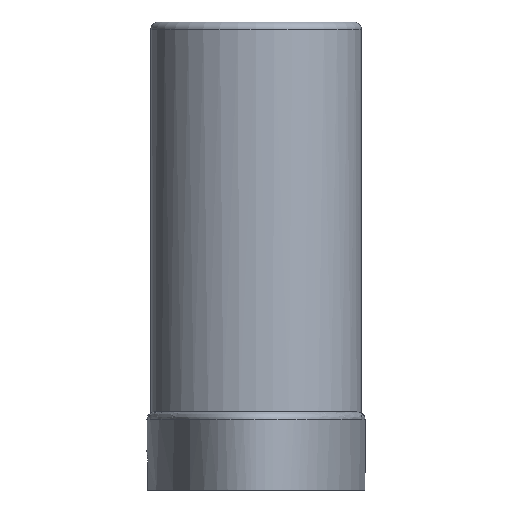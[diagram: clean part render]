
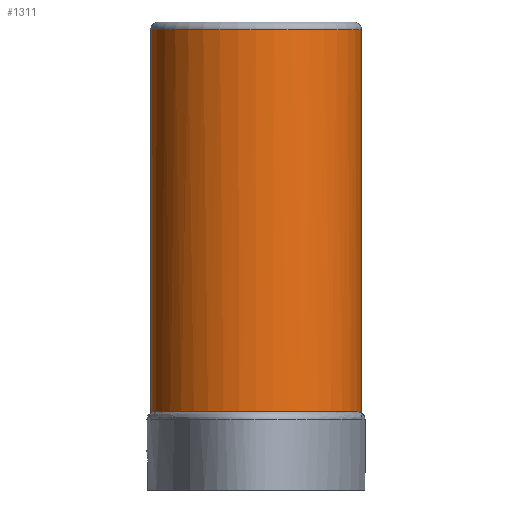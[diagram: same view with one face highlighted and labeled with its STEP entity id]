
A CAD part, left-side view. The second image highlights one B-rep face of the part: STEP entity #1311.
In plain terms, the highlighted cylindrical face has radius 6.75 mm (diameter 13.5 mm), a full revolution.
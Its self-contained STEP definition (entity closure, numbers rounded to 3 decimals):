
#93=B_SPLINE_CURVE_WITH_KNOTS('',3,(#2774,#2775,#2776,#2777,#2778,#2779,
#2780,#2781,#2782,#2783,#2784,#2785,#2786,#2787,#2788,#2789,#2790,#2791,
#2792,#2793,#2794,#2795,#2796,#2797),.UNSPECIFIED.,.F.,.F.,(4,2,2,2,2,2,
2,2,2,2,2,4),(0.,0.021,0.173,0.183,
0.188,0.19,0.193,0.198,
0.207,0.228,0.277,0.367),
 .UNSPECIFIED.);
#98=B_SPLINE_CURVE_WITH_KNOTS('',3,(#2849,#2850,#2851,#2852,#2853,#2854,
#2855,#2856,#2857,#2858,#2859,#2860,#2861,#2862,#2863,#2864,#2865,#2866,
#2867,#2868,#2869,#2870,#2871,#2872),.UNSPECIFIED.,.F.,.F.,(4,2,2,2,2,2,
2,2,2,2,2,4),(0.,0.021,0.173,0.183,
0.188,0.19,0.193,0.198,
0.207,0.228,0.277,0.367),
 .UNSPECIFIED.);
#195=FACE_OUTER_BOUND('',#274,.T.);
#274=EDGE_LOOP('',(#1179,#1180,#1181,#1182,#1183,#1184,#1185,#1186));
#338=LINE('',#3156,#396);
#396=VECTOR('',#1825,6.75);
#465=CIRCLE('',#1442,6.75);
#466=CIRCLE('',#1443,6.75);
#481=CIRCLE('',#1477,6.75);
#482=CIRCLE('',#1479,6.75);
#574=VERTEX_POINT('',#2772);
#575=VERTEX_POINT('',#2773);
#579=VERTEX_POINT('',#2839);
#580=VERTEX_POINT('',#2848);
#581=VERTEX_POINT('',#2891);
#605=VERTEX_POINT('',#3152);
#749=EDGE_CURVE('',#574,#575,#93,.T.);
#755=EDGE_CURVE('',#580,#579,#98,.T.);
#757=EDGE_CURVE('',#580,#581,#465,.T.);
#758=EDGE_CURVE('',#581,#575,#466,.T.);
#802=EDGE_CURVE('',#605,#605,#481,.T.);
#803=EDGE_CURVE('',#605,#581,#338,.T.);
#804=EDGE_CURVE('',#574,#579,#482,.T.);
#1179=ORIENTED_EDGE('',*,*,#802,.F.);
#1180=ORIENTED_EDGE('',*,*,#803,.T.);
#1181=ORIENTED_EDGE('',*,*,#757,.F.);
#1182=ORIENTED_EDGE('',*,*,#755,.T.);
#1183=ORIENTED_EDGE('',*,*,#804,.F.);
#1184=ORIENTED_EDGE('',*,*,#749,.T.);
#1185=ORIENTED_EDGE('',*,*,#758,.F.);
#1186=ORIENTED_EDGE('',*,*,#803,.F.);
#1236=CYLINDRICAL_SURFACE('',#1478,6.75);
#1311=ADVANCED_FACE('',(#195),#1236,.T.);
#1442=AXIS2_PLACEMENT_3D('',#2892,#1736,#1737);
#1443=AXIS2_PLACEMENT_3D('',#2893,#1738,#1739);
#1477=AXIS2_PLACEMENT_3D('',#3154,#1821,#1822);
#1478=AXIS2_PLACEMENT_3D('',#3155,#1823,#1824);
#1479=AXIS2_PLACEMENT_3D('',#3157,#1826,#1827);
#1736=DIRECTION('center_axis',(0.,0.,-1.));
#1737=DIRECTION('ref_axis',(1.,0.,0.));
#1738=DIRECTION('center_axis',(0.,0.,-1.));
#1739=DIRECTION('ref_axis',(1.,0.,0.));
#1821=DIRECTION('center_axis',(0.,0.,1.));
#1822=DIRECTION('ref_axis',(1.,0.,0.));
#1823=DIRECTION('center_axis',(0.,0.,1.));
#1824=DIRECTION('ref_axis',(1.,0.,0.));
#1825=DIRECTION('',(0.,0.,-1.));
#1826=DIRECTION('center_axis',(0.,0.,-1.));
#1827=DIRECTION('ref_axis',(1.,0.,0.));
#2772=CARTESIAN_POINT('',(2.042,6.434,5.));
#2773=CARTESIAN_POINT('',(-2.042,6.434,5.));
#2774=CARTESIAN_POINT('Ctrl Pts',(2.042,6.434,5.));
#2775=CARTESIAN_POINT('Ctrl Pts',(1.976,6.455,5.));
#2776=CARTESIAN_POINT('Ctrl Pts',(1.911,6.474,4.999));
#2777=CARTESIAN_POINT('Ctrl Pts',(1.356,6.632,4.987));
#2778=CARTESIAN_POINT('Ctrl Pts',(0.809,6.728,4.943));
#2779=CARTESIAN_POINT('Ctrl Pts',(0.167,6.748,4.934));
#2780=CARTESIAN_POINT('Ctrl Pts',(0.127,6.749,4.933));
#2781=CARTESIAN_POINT('Ctrl Pts',(0.07,6.75,4.933));
#2782=CARTESIAN_POINT('Ctrl Pts',(0.053,6.75,4.933));
#2783=CARTESIAN_POINT('Ctrl Pts',(0.025,6.75,4.933));
#2784=CARTESIAN_POINT('Ctrl Pts',(0.014,6.75,4.933));
#2785=CARTESIAN_POINT('Ctrl Pts',(-0.008,6.75,
4.933));
#2786=CARTESIAN_POINT('Ctrl Pts',(-0.02,6.75,
4.933));
#2787=CARTESIAN_POINT('Ctrl Pts',(-0.048,6.75,
4.933));
#2788=CARTESIAN_POINT('Ctrl Pts',(-0.064,6.75,4.933));
#2789=CARTESIAN_POINT('Ctrl Pts',(-0.119,6.749,4.933));
#2790=CARTESIAN_POINT('Ctrl Pts',(-0.157,6.748,4.934));
#2791=CARTESIAN_POINT('Ctrl Pts',(-0.277,6.745,4.935));
#2792=CARTESIAN_POINT('Ctrl Pts',(-0.359,6.741,4.937));
#2793=CARTESIAN_POINT('Ctrl Pts',(-0.634,6.723,4.945));
#2794=CARTESIAN_POINT('Ctrl Pts',(-0.827,6.702,4.953));
#2795=CARTESIAN_POINT('Ctrl Pts',(-1.368,6.619,4.98));
#2796=CARTESIAN_POINT('Ctrl Pts',(-1.71,6.539,5.));
#2797=CARTESIAN_POINT('Ctrl Pts',(-2.042,6.434,5.));
#2839=CARTESIAN_POINT('',(2.042,-6.434,5.));
#2848=CARTESIAN_POINT('',(-2.042,-6.434,5.));
#2849=CARTESIAN_POINT('Ctrl Pts',(-2.042,-6.434,5.));
#2850=CARTESIAN_POINT('Ctrl Pts',(-1.976,-6.455,5.));
#2851=CARTESIAN_POINT('Ctrl Pts',(-1.911,-6.474,4.999));
#2852=CARTESIAN_POINT('Ctrl Pts',(-1.356,-6.632,4.987));
#2853=CARTESIAN_POINT('Ctrl Pts',(-0.809,-6.728,
4.943));
#2854=CARTESIAN_POINT('Ctrl Pts',(-0.167,-6.748,
4.934));
#2855=CARTESIAN_POINT('Ctrl Pts',(-0.127,-6.749,
4.934));
#2856=CARTESIAN_POINT('Ctrl Pts',(-0.07,-6.75,
4.933));
#2857=CARTESIAN_POINT('Ctrl Pts',(-0.053,-6.75,
4.933));
#2858=CARTESIAN_POINT('Ctrl Pts',(-0.025,-6.75,
4.933));
#2859=CARTESIAN_POINT('Ctrl Pts',(-0.014,-6.75,4.933));
#2860=CARTESIAN_POINT('Ctrl Pts',(0.008,-6.75,
4.933));
#2861=CARTESIAN_POINT('Ctrl Pts',(0.02,-6.75,
4.933));
#2862=CARTESIAN_POINT('Ctrl Pts',(0.048,-6.75,
4.933));
#2863=CARTESIAN_POINT('Ctrl Pts',(0.064,-6.75,
4.933));
#2864=CARTESIAN_POINT('Ctrl Pts',(0.119,-6.749,4.933));
#2865=CARTESIAN_POINT('Ctrl Pts',(0.157,-6.748,4.934));
#2866=CARTESIAN_POINT('Ctrl Pts',(0.277,-6.745,4.935));
#2867=CARTESIAN_POINT('Ctrl Pts',(0.359,-6.741,4.937));
#2868=CARTESIAN_POINT('Ctrl Pts',(0.634,-6.723,4.945));
#2869=CARTESIAN_POINT('Ctrl Pts',(0.827,-6.702,4.953));
#2870=CARTESIAN_POINT('Ctrl Pts',(1.368,-6.619,4.98));
#2871=CARTESIAN_POINT('Ctrl Pts',(1.71,-6.539,5.));
#2872=CARTESIAN_POINT('Ctrl Pts',(2.042,-6.434,5.));
#2891=CARTESIAN_POINT('',(-6.75,0.,5.));
#2892=CARTESIAN_POINT('Origin',(0.,0.,5.));
#2893=CARTESIAN_POINT('Origin',(0.,0.,5.));
#3152=CARTESIAN_POINT('',(-6.75,0.,29.433));
#3154=CARTESIAN_POINT('Origin',(0.,0.,29.433));
#3155=CARTESIAN_POINT('Origin',(0.,0.,5.));
#3156=CARTESIAN_POINT('',(-6.75,0.,5.));
#3157=CARTESIAN_POINT('Origin',(0.,0.,5.));
